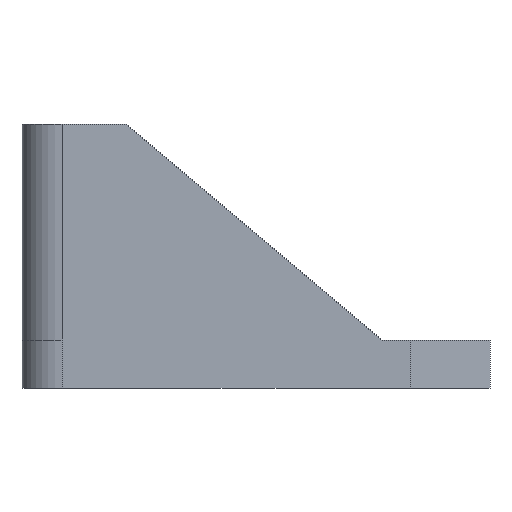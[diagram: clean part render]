
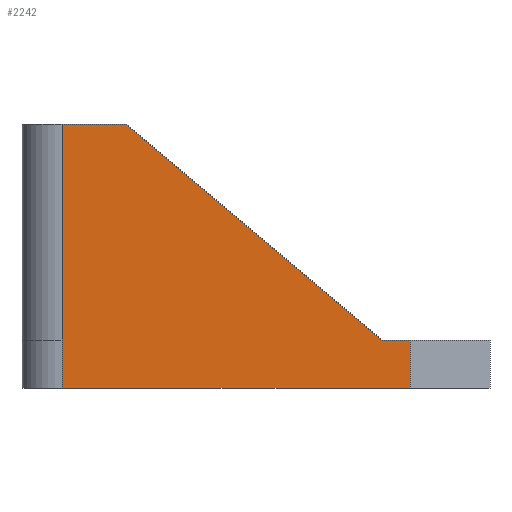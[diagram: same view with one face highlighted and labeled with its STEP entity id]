
A CAD part, front view. The second image highlights one B-rep face of the part: STEP entity #2242.
In plain terms, the highlighted planar face has unit normal (0, -1, 0).
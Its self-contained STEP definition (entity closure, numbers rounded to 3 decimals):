
#2220=AXIS2_PLACEMENT_3D('Plane Axis2P3D',#2217,#2218,#2219) ;
#1448=CARTESIAN_POINT('Vertex',(43.5,-105.,0.)) ;
#1451=CARTESIAN_POINT('Line Origine',(31.75,-105.,0.)) ;
#1455=CARTESIAN_POINT('Vertex',(20.,-105.,0.)) ;
#1458=CARTESIAN_POINT('Line Origine',(10.,-105.,0.)) ;
#1462=CARTESIAN_POINT('Vertex',(0.,-105.,0.)) ;
#1969=CARTESIAN_POINT('Line Origine',(24.,-105.,19.5)) ;
#1973=CARTESIAN_POINT('Vertex',(8.,-105.,33.)) ;
#1975=CARTESIAN_POINT('Vertex',(40.,-105.,6.)) ;
#2022=CARTESIAN_POINT('Vertex',(0.,-105.,6.)) ;
#2025=CARTESIAN_POINT('Line Origine',(0.,-105.,16.5)) ;
#2029=CARTESIAN_POINT('Vertex',(0.,-105.,33.)) ;
#2066=CARTESIAN_POINT('Line Origine',(41.75,-105.,6.)) ;
#2070=CARTESIAN_POINT('Vertex',(43.5,-105.,6.)) ;
#2205=CARTESIAN_POINT('Line Origine',(0.,-105.,3.)) ;
#2217=CARTESIAN_POINT('Axis2P3D Location',(20.,-105.,0.)) ;
#2222=CARTESIAN_POINT('Line Origine',(43.5,-105.,3.)) ;
#2227=CARTESIAN_POINT('Line Origine',(4.,-105.,33.)) ;
#1452=DIRECTION('Vector Direction',(1.,0.,0.)) ;
#1459=DIRECTION('Vector Direction',(-1.,0.,0.)) ;
#1970=DIRECTION('Vector Direction',(0.764,0.,-0.645)) ;
#2026=DIRECTION('Vector Direction',(0.,0.,1.)) ;
#2067=DIRECTION('Vector Direction',(1.,0.,0.)) ;
#2206=DIRECTION('Vector Direction',(0.,0.,-1.)) ;
#2218=DIRECTION('Axis2P3D Direction',(0.,-1.,0.)) ;
#2219=DIRECTION('Axis2P3D XDirection',(1.,0.,0.)) ;
#2223=DIRECTION('Vector Direction',(0.,0.,1.)) ;
#2228=DIRECTION('Vector Direction',(1.,0.,0.)) ;
#1453=VECTOR('Line Direction',#1452,1.) ;
#1460=VECTOR('Line Direction',#1459,1.) ;
#1971=VECTOR('Line Direction',#1970,1.) ;
#2027=VECTOR('Line Direction',#2026,1.) ;
#2068=VECTOR('Line Direction',#2067,1.) ;
#2207=VECTOR('Line Direction',#2206,1.) ;
#2224=VECTOR('Line Direction',#2223,1.) ;
#2229=VECTOR('Line Direction',#2228,1.) ;
#2233=ORIENTED_EDGE('',*,*,#2209,.F.) ;
#2234=ORIENTED_EDGE('',*,*,#1464,.F.) ;
#2235=ORIENTED_EDGE('',*,*,#1457,.F.) ;
#2236=ORIENTED_EDGE('',*,*,#2226,.T.) ;
#2237=ORIENTED_EDGE('',*,*,#2072,.T.) ;
#2238=ORIENTED_EDGE('',*,*,#1977,.F.) ;
#2239=ORIENTED_EDGE('',*,*,#2231,.F.) ;
#2240=ORIENTED_EDGE('',*,*,#2031,.F.) ;
#2242=ADVANCED_FACE('PartBody',(#2241),#2221,.T.) ;
#1457=EDGE_CURVE('',#1449,#1456,#1454,.F.) ;
#1464=EDGE_CURVE('',#1456,#1463,#1461,.T.) ;
#1977=EDGE_CURVE('',#1974,#1976,#1972,.T.) ;
#2031=EDGE_CURVE('',#2023,#2030,#2028,.T.) ;
#2072=EDGE_CURVE('',#2071,#1976,#2069,.F.) ;
#2209=EDGE_CURVE('',#1463,#2023,#2208,.F.) ;
#2226=EDGE_CURVE('',#1449,#2071,#2225,.T.) ;
#2231=EDGE_CURVE('',#2030,#1974,#2230,.T.) ;
#2232=EDGE_LOOP('',(#2233,#2234,#2235,#2236,#2237,#2238,#2239,#2240)) ;
#2241=FACE_OUTER_BOUND('',#2232,.T.) ;
#1454=LINE('Line',#1451,#1453) ;
#1461=LINE('Line',#1458,#1460) ;
#1972=LINE('Line',#1969,#1971) ;
#2028=LINE('Line',#2025,#2027) ;
#2069=LINE('Line',#2066,#2068) ;
#2208=LINE('Line',#2205,#2207) ;
#2225=LINE('Line',#2222,#2224) ;
#2230=LINE('Line',#2227,#2229) ;
#2221=PLANE('',#2220) ;
#1449=VERTEX_POINT('',#1448) ;
#1456=VERTEX_POINT('',#1455) ;
#1463=VERTEX_POINT('',#1462) ;
#1974=VERTEX_POINT('',#1973) ;
#1976=VERTEX_POINT('',#1975) ;
#2023=VERTEX_POINT('',#2022) ;
#2030=VERTEX_POINT('',#2029) ;
#2071=VERTEX_POINT('',#2070) ;
